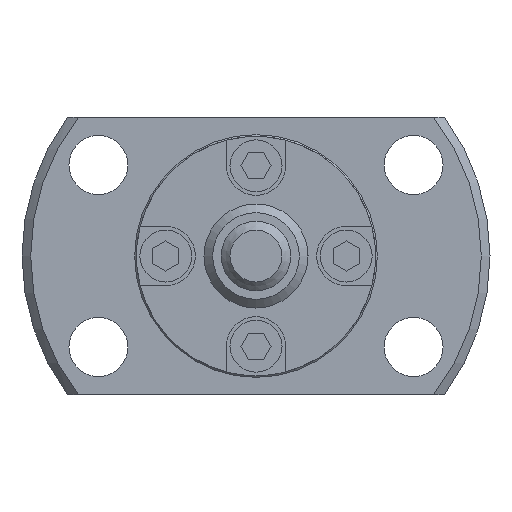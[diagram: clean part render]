
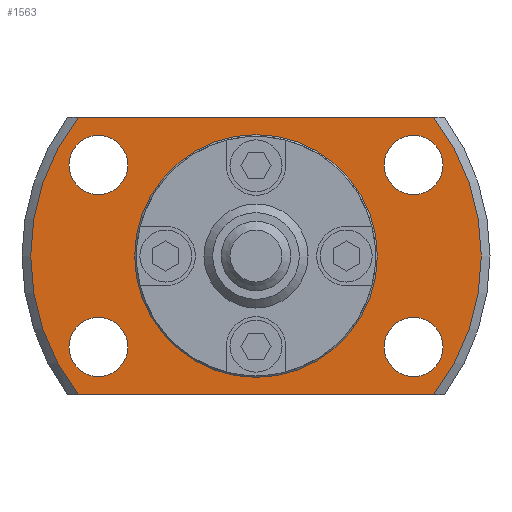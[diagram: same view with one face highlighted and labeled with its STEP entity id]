
A CAD part, left-side view. The second image highlights one B-rep face of the part: STEP entity #1563.
In plain terms, the highlighted planar face has unit normal (-1, 0, 0).
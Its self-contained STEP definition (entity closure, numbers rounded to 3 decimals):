
#126=LINE('',#2567,#246);
#127=LINE('',#2571,#247);
#246=VECTOR('',#2068,1000.);
#247=VECTOR('',#2071,1000.);
#458=ORIENTED_EDGE('',*,*,#823,.T.);
#459=ORIENTED_EDGE('',*,*,#824,.T.);
#460=ORIENTED_EDGE('',*,*,#825,.T.);
#461=ORIENTED_EDGE('',*,*,#826,.T.);
#462=ORIENTED_EDGE('',*,*,#779,.F.);
#463=ORIENTED_EDGE('',*,*,#827,.T.);
#464=ORIENTED_EDGE('',*,*,#828,.F.);
#465=ORIENTED_EDGE('',*,*,#829,.T.);
#466=ORIENTED_EDGE('',*,*,#822,.T.);
#779=EDGE_CURVE('',#977,#978,#1098,.T.);
#822=EDGE_CURVE('',#1015,#1015,#1120,.T.);
#823=EDGE_CURVE('',#1016,#1016,#1121,.T.);
#824=EDGE_CURVE('',#1017,#1017,#1122,.T.);
#825=EDGE_CURVE('',#1018,#1018,#1123,.T.);
#826=EDGE_CURVE('',#1019,#1019,#1124,.T.);
#827=EDGE_CURVE('',#977,#1020,#126,.T.);
#828=EDGE_CURVE('',#1021,#1020,#1125,.T.);
#829=EDGE_CURVE('',#1021,#978,#127,.T.);
#977=VERTEX_POINT('',#2457);
#978=VERTEX_POINT('',#2459);
#1015=VERTEX_POINT('',#2557);
#1016=VERTEX_POINT('',#2560);
#1017=VERTEX_POINT('',#2562);
#1018=VERTEX_POINT('',#2564);
#1019=VERTEX_POINT('',#2566);
#1020=VERTEX_POINT('',#2568);
#1021=VERTEX_POINT('',#2570);
#1098=CIRCLE('',#1709,13.);
#1120=CIRCLE('',#1740,6.8);
#1121=CIRCLE('',#1742,1.7);
#1122=CIRCLE('',#1743,1.7);
#1123=CIRCLE('',#1744,1.7);
#1124=CIRCLE('',#1745,1.7);
#1125=CIRCLE('',#1746,13.);
#1211=EDGE_LOOP('',(#458));
#1212=EDGE_LOOP('',(#459));
#1213=EDGE_LOOP('',(#460));
#1214=EDGE_LOOP('',(#461));
#1215=EDGE_LOOP('',(#462,#463,#464,#465));
#1216=EDGE_LOOP('',(#466));
#1369=FACE_BOUND('',#1211,.T.);
#1370=FACE_BOUND('',#1212,.T.);
#1371=FACE_BOUND('',#1213,.T.);
#1372=FACE_BOUND('',#1214,.T.);
#1373=FACE_BOUND('',#1215,.T.);
#1374=FACE_BOUND('',#1216,.T.);
#1480=PLANE('',#1741);
#1563=ADVANCED_FACE('',(#1369,#1370,#1371,#1372,#1373,#1374),#1480,.F.);
#1709=AXIS2_PLACEMENT_3D('',#2458,#1976,#1977);
#1740=AXIS2_PLACEMENT_3D('',#2556,#2056,#2057);
#1741=AXIS2_PLACEMENT_3D('',#2558,#2058,#2059);
#1742=AXIS2_PLACEMENT_3D('',#2559,#2060,#2061);
#1743=AXIS2_PLACEMENT_3D('',#2561,#2062,#2063);
#1744=AXIS2_PLACEMENT_3D('',#2563,#2064,#2065);
#1745=AXIS2_PLACEMENT_3D('',#2565,#2066,#2067);
#1746=AXIS2_PLACEMENT_3D('',#2569,#2069,#2070);
#1976=DIRECTION('',(1.,0.,0.));
#1977=DIRECTION('',(0.,0.,-1.));
#2056=DIRECTION('',(1.,0.,0.));
#2057=DIRECTION('',(0.,0.,-1.));
#2058=DIRECTION('',(1.,0.,0.));
#2059=DIRECTION('',(0.,0.,-1.));
#2060=DIRECTION('',(1.,0.,0.));
#2061=DIRECTION('',(0.,0.,-1.));
#2062=DIRECTION('',(1.,0.,0.));
#2063=DIRECTION('',(0.,0.,-1.));
#2064=DIRECTION('',(1.,0.,0.));
#2065=DIRECTION('',(0.,0.,-1.));
#2066=DIRECTION('',(1.,0.,0.));
#2067=DIRECTION('',(0.,0.,-1.));
#2068=DIRECTION('',(0.,-1.,0.));
#2069=DIRECTION('',(1.,0.,0.));
#2070=DIRECTION('',(0.,0.,-1.));
#2071=DIRECTION('',(0.,1.,0.));
#2457=CARTESIAN_POINT('',(11.5,10.247,-8.));
#2458=CARTESIAN_POINT('',(11.5,0.,0.));
#2459=CARTESIAN_POINT('',(11.5,10.247,8.));
#2556=CARTESIAN_POINT('',(11.5,0.,0.));
#2557=CARTESIAN_POINT('',(11.5,0.,-6.8));
#2558=CARTESIAN_POINT('',(11.5,6.8,0.));
#2559=CARTESIAN_POINT('',(11.5,-9.093,-5.25));
#2560=CARTESIAN_POINT('',(11.5,-9.093,-6.95));
#2561=CARTESIAN_POINT('',(11.5,-9.093,5.25));
#2562=CARTESIAN_POINT('',(11.5,-9.093,3.55));
#2563=CARTESIAN_POINT('',(11.5,9.093,-5.25));
#2564=CARTESIAN_POINT('',(11.5,9.093,-6.95));
#2565=CARTESIAN_POINT('',(11.5,9.093,5.25));
#2566=CARTESIAN_POINT('',(11.5,9.093,3.55));
#2567=CARTESIAN_POINT('',(11.5,6.8,-8.));
#2568=CARTESIAN_POINT('',(11.5,-10.247,-8.));
#2569=CARTESIAN_POINT('',(11.5,0.,0.));
#2570=CARTESIAN_POINT('',(11.5,-10.247,8.));
#2571=CARTESIAN_POINT('',(11.5,6.8,8.));
